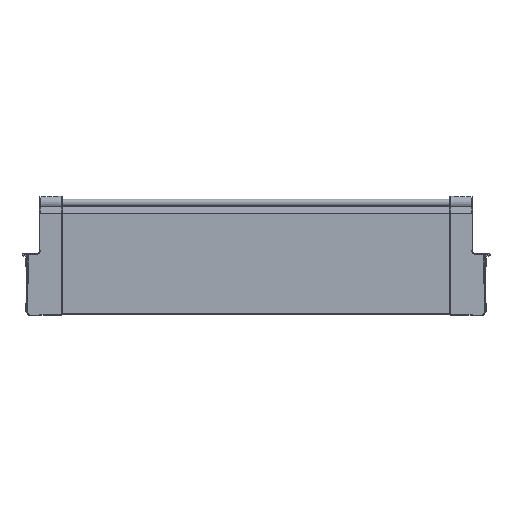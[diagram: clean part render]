
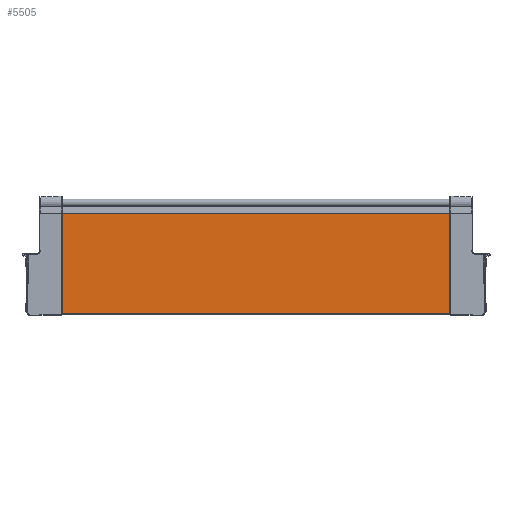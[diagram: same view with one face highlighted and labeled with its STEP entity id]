
A CAD part, top view. The second image highlights one B-rep face of the part: STEP entity #5505.
In plain terms, the highlighted planar face has unit normal (0, 0, 1).
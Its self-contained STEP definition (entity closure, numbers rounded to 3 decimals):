
#989 = FACE_OUTER_BOUND ( 'NONE', #5506, .T. ) ;
#1031 = CARTESIAN_POINT ( 'NONE',  ( -468.3, -64.725, 4.05 ) ) ;
#1032 = DIRECTION ( 'NONE',  ( 0., -1., 0. ) ) ;
#1033 = VECTOR ( 'NONE', #1032, 1000. ) ;
#1034 = CARTESIAN_POINT ( 'NONE',  ( -468.3, 45.248, 4.05 ) ) ;
#1035 = DIRECTION ( 'NONE',  ( 0., 1., 0. ) ) ;
#1036 = DIRECTION ( 'NONE',  ( 0., 0., -1. ) ) ;
#1037 = CARTESIAN_POINT ( 'NONE',  ( 89.157, 45.248, 4.05 ) ) ;
#1038 = AXIS2_PLACEMENT_3D ( 'NONE', #1037, #1036, #1035 ) ;
#1039 = PLANE ( 'NONE',  #1038 ) ;
#1040 = LINE ( 'NONE', #1034, #1033 ) ;
#1091 = DIRECTION ( 'NONE',  ( -1., 0., 0. ) ) ;
#1092 = VECTOR ( 'NONE', #1091, 1000. ) ;
#1093 = CARTESIAN_POINT ( 'NONE',  ( 89.157, -64.725, 4.05 ) ) ;
#1094 = LINE ( 'NONE', #1093, #1092 ) ;
#1152 = CARTESIAN_POINT ( 'NONE',  ( -468.3, 45.248, 4.05 ) ) ;
#1230 = DIRECTION ( 'NONE',  ( -1., 0., 0. ) ) ;
#1231 = VECTOR ( 'NONE', #1230, 1000. ) ;
#1232 = CARTESIAN_POINT ( 'NONE',  ( 89.157, 45.248, 4.05 ) ) ;
#1233 = LINE ( 'NONE', #1232, #1231 ) ;
#4053 = EDGE_CURVE ( 'NONE', #4111, #4058, #6750, .T. ) ;
#4058 = VERTEX_POINT ( 'NONE', #6740 ) ;
#4111 = VERTEX_POINT ( 'NONE', #6858 ) ;
#5505 = ADVANCED_FACE ( 'NONE', ( #989 ), #1039, .F. ) ;
#5506 = EDGE_LOOP ( 'NONE', ( #5507, #5508, #5509, #5512 ) ) ;
#5507 = ORIENTED_EDGE ( 'NONE', *, *, #4053, .F. ) ;
#5508 = ORIENTED_EDGE ( 'NONE', *, *, #5584, .T. ) ;
#5509 = ORIENTED_EDGE ( 'NONE', *, *, #5510, .T. ) ;
#5510 = EDGE_CURVE ( 'NONE', #5526, #5511, #1040, .T. ) ;
#5511 = VERTEX_POINT ( 'NONE', #1031 ) ;
#5512 = ORIENTED_EDGE ( 'NONE', *, *, #5513, .F. ) ;
#5513 = EDGE_CURVE ( 'NONE', #4058, #5511, #1094, .T. ) ;
#5526 = VERTEX_POINT ( 'NONE', #1152 ) ;
#5584 = EDGE_CURVE ( 'NONE', #4111, #5526, #1233, .T. ) ;
#6740 = CARTESIAN_POINT ( 'NONE',  ( -38.8, -64.725, 4.05 ) ) ;
#6747 = DIRECTION ( 'NONE',  ( 0., -1., 0. ) ) ;
#6748 = VECTOR ( 'NONE', #6747, 1000. ) ;
#6749 = CARTESIAN_POINT ( 'NONE',  ( -38.8, 45.248, 4.05 ) ) ;
#6750 = LINE ( 'NONE', #6749, #6748 ) ;
#6858 = CARTESIAN_POINT ( 'NONE',  ( -38.8, 45.248, 4.05 ) ) ;
